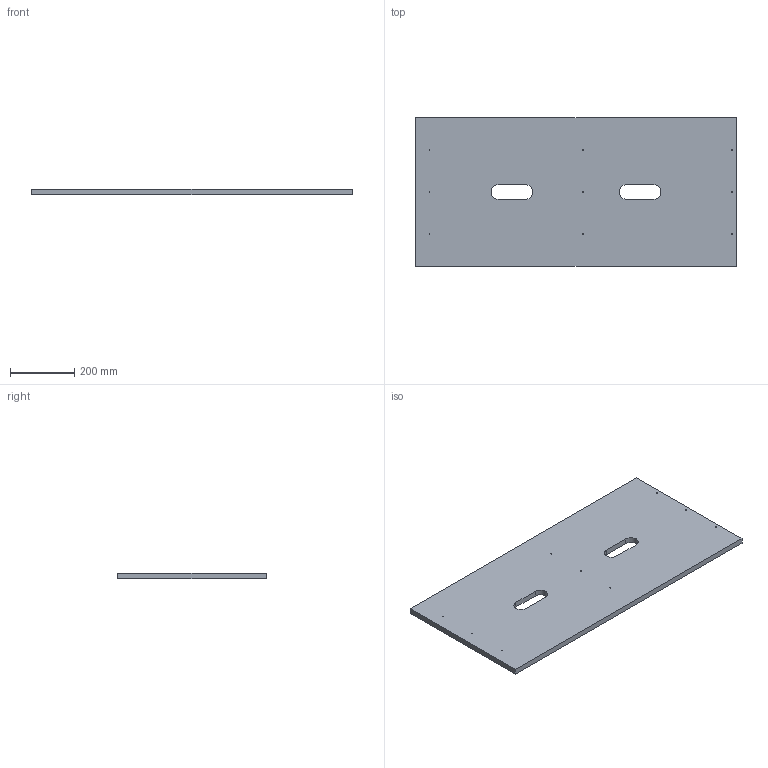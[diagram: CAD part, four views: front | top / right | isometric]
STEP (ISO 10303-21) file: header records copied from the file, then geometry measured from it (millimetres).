
FILE_DESCRIPTION(('Open CASCADE Model'),'2;1');
FILE_NAME('Open CASCADE Shape Model','2026-09-28T10:13:54',('Author'),( 'Open CASCADE'),'Open CASCADE STEP processor 7.9','Open CASCADE 7.9' ,'Unknown');
FILE_SCHEMA(('AUTOMOTIVE_DESIGN { 1 0 10303 214 1 1 1 1 }'));
Length unit declared in the file: millimetre
Products named in the file (1): Open CASCADE STEP translator 7.9 6
Bounding box: 1000 x 464 x 18 mm (x, y, z)
Volume: 8156249.3 mm3; surface area: 971435.6 mm2
Topology: 1 solids, 1 shells, 23 faces, 63 edges, 42 vertices
Faces by surface type: cylinder 13, plane 10
Full cylindrical faces by diameter (mm): 2.5 x9
Entity records: 1616 total; most frequent: DIRECTION 263, CARTESIAN_POINT 255, LINE 137, VECTOR 137, ORIENTED_EDGE 126, PCURVE 126, DEFINITIONAL_REPRESENTATION 126, EDGE_CURVE 63
